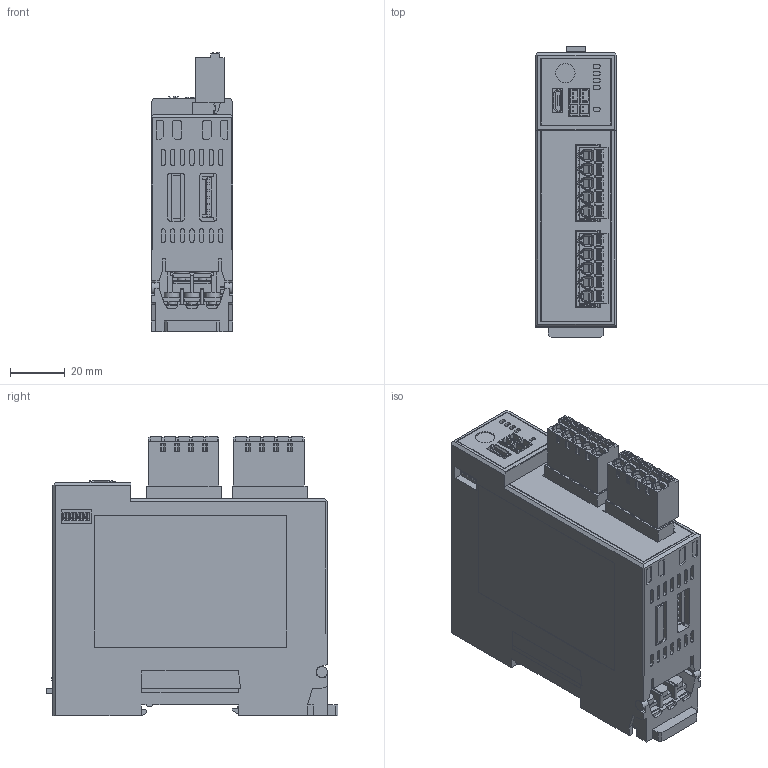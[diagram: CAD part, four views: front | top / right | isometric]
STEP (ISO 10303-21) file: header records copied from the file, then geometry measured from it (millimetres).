
FILE_DESCRIPTION (( 'STEP AP214' ), '1' );
FILE_NAME ('QTC1-2PCorCC_251112.STEP', '2025-11-13T05:47:06', ( '' ), ( '' ), 'SwSTEP 2.0', 'SolidWorks 2022', '' );
FILE_SCHEMA (( 'AUTOMOTIVE_DESIGN' ));
Length unit declared in the file: millimetre
Products named in the file (3): QTC1-20C_251112; QTC1-2PCorCC_251112; DINKLE_2ess-05P_new
Assembly tree (3 placements, depth 2):
  QTC1-2PCorCC_251112
    QTC1-20C_251112
    DINKLE_2ess-05P_new  x2
Bounding box: 29.8 x 106.35 x 102 mm (x, y, z)
Volume: 229926.5 mm3; surface area: 47251.8 mm2
Topology: 3 solids, 39 shells, 3927 faces, 9809 edges, 6137 vertices
Faces by surface type: plane 2302, cylinder 1097, bspline 224, torus 134, sphere 104, cone 66
Entity records: 95624 total; most frequent: CARTESIAN_POINT 27460, ORIENTED_EDGE 14064, DIRECTION 13381, EDGE_CURVE 7032, LINE 5185, VECTOR 5185, VERTEX_POINT 4474, AXIS2_PLACEMENT_3D 4098
